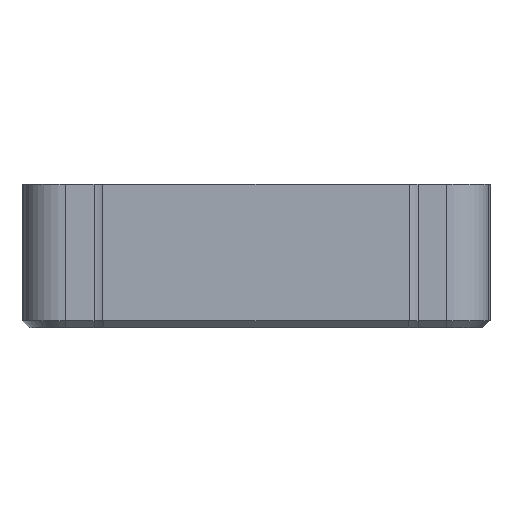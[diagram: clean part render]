
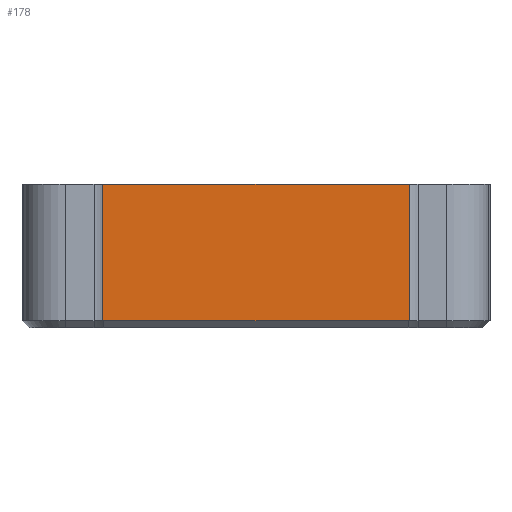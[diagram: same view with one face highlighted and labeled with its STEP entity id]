
A CAD part, front view. The second image highlights one B-rep face of the part: STEP entity #178.
In plain terms, the highlighted planar face has unit normal (0, -1, 0).
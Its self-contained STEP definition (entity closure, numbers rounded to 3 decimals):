
#37 = ORIENTED_EDGE ( 'NONE', *, *, #357, .F. ) ;
#53 = LINE ( 'NONE', #311, #994 ) ;
#78 = ORIENTED_EDGE ( 'NONE', *, *, #1698, .T. ) ;
#89 = DIRECTION ( 'NONE',  ( 0., 0., -1. ) ) ;
#178 = ADVANCED_FACE ( 'NONE', ( #984 ), #308, .F. ) ;
#205 = DIRECTION ( 'NONE',  ( 0., 0., -1. ) ) ;
#247 = CARTESIAN_POINT ( 'NONE',  ( -42.502, -65., 2. ) ) ;
#308 = PLANE ( 'NONE',  #1201 ) ;
#311 = CARTESIAN_POINT ( 'NONE',  ( -42.502, -65., 32. ) ) ;
#357 = EDGE_CURVE ( 'NONE', #1275, #1190, #612, .T. ) ;
#506 = DIRECTION ( 'NONE',  ( 1., 0., 0. ) ) ;
#586 = ORIENTED_EDGE ( 'NONE', *, *, #1499, .F. ) ;
#612 = LINE ( 'NONE', #1292, #776 ) ;
#683 = CARTESIAN_POINT ( 'NONE',  ( -42.502, -65., 40. ) ) ;
#776 = VECTOR ( 'NONE', #1160, 1000. ) ;
#780 = CARTESIAN_POINT ( 'NONE',  ( 42.502, -65., 40. ) ) ;
#906 = VECTOR ( 'NONE', #205, 1000. ) ;
#984 = FACE_OUTER_BOUND ( 'NONE', #1059, .T. ) ;
#994 = VECTOR ( 'NONE', #89, 1000. ) ;
#1001 = ORIENTED_EDGE ( 'NONE', *, *, #1088, .T. ) ;
#1032 = VERTEX_POINT ( 'NONE', #247 ) ;
#1034 = LINE ( 'NONE', #1446, #1344 ) ;
#1059 = EDGE_LOOP ( 'NONE', ( #78, #1001, #586, #37 ) ) ;
#1088 = EDGE_CURVE ( 'NONE', #1032, #1694, #1034, .T. ) ;
#1131 = CARTESIAN_POINT ( 'NONE',  ( 42.502, -65., 2. ) ) ;
#1160 = DIRECTION ( 'NONE',  ( 1., 0., 0. ) ) ;
#1190 = VERTEX_POINT ( 'NONE', #780 ) ;
#1201 = AXIS2_PLACEMENT_3D ( 'NONE', #1507, #1638, #1657 ) ;
#1275 = VERTEX_POINT ( 'NONE', #683 ) ;
#1292 = CARTESIAN_POINT ( 'NONE',  ( -53., -65., 40. ) ) ;
#1344 = VECTOR ( 'NONE', #506, 1000. ) ;
#1446 = CARTESIAN_POINT ( 'NONE',  ( 42.502, -65., 2. ) ) ;
#1499 = EDGE_CURVE ( 'NONE', #1190, #1694, #1543, .T. ) ;
#1507 = CARTESIAN_POINT ( 'NONE',  ( -42.502, -65., 32. ) ) ;
#1543 = LINE ( 'NONE', #1669, #906 ) ;
#1638 = DIRECTION ( 'NONE',  ( 0., 1., 0. ) ) ;
#1657 = DIRECTION ( 'NONE',  ( 1., 0., 0. ) ) ;
#1669 = CARTESIAN_POINT ( 'NONE',  ( 42.502, -65., 32. ) ) ;
#1694 = VERTEX_POINT ( 'NONE', #1131 ) ;
#1698 = EDGE_CURVE ( 'NONE', #1275, #1032, #53, .T. ) ;
